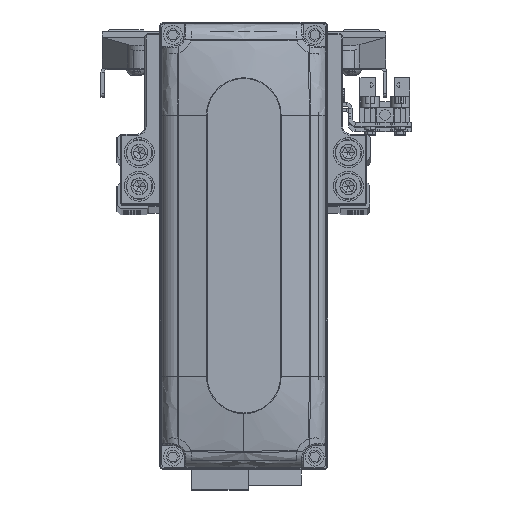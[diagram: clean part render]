
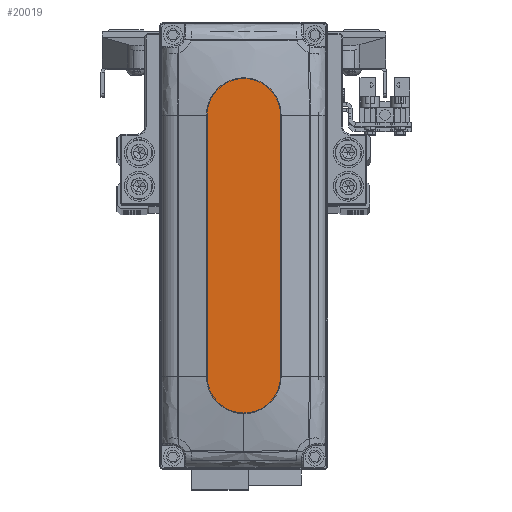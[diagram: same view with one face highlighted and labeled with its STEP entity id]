
A CAD part, top view. The second image highlights one B-rep face of the part: STEP entity #20019.
In plain terms, the highlighted planar face has unit normal (0, 0, 1).
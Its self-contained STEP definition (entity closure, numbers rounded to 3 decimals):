
#1081 = CARTESIAN_POINT ( 'NONE',  ( -35., 10., 28. ) ) ;
#1635 = VERTEX_POINT ( 'NONE', #8717 ) ;
#2013 = VERTEX_POINT ( 'NONE', #33654 ) ;
#2518 = ORIENTED_EDGE ( 'NONE', *, *, #35294, .T. ) ;
#3410 = AXIS2_PLACEMENT_3D ( 'NONE', #5566, #20137, #34595 ) ;
#4922 = DIRECTION ( 'NONE',  ( 0., 0., 1. ) ) ;
#5566 = CARTESIAN_POINT ( 'NONE',  ( 35., 0., 28. ) ) ;
#6626 = EDGE_CURVE ( 'NONE', #1635, #23513, #29495, .T. ) ;
#6860 = DIRECTION ( 'NONE',  ( 1., 0., 0. ) ) ;
#7547 = EDGE_CURVE ( 'NONE', #12748, #1635, #45871, .T. ) ;
#8717 = CARTESIAN_POINT ( 'NONE',  ( -35., -10., 28. ) ) ;
#8799 = EDGE_CURVE ( 'NONE', #2013, #36506, #23962, .T. ) ;
#10449 = PLANE ( 'NONE',  #24432 ) ;
#11001 = ORIENTED_EDGE ( 'NONE', *, *, #8799, .T. ) ;
#11414 = DIRECTION ( 'NONE',  ( 1., 0., 0. ) ) ;
#11912 = EDGE_LOOP ( 'NONE', ( #35674, #17761, #17224, #2518, #11001 ) ) ;
#12485 = CARTESIAN_POINT ( 'NONE',  ( -35., 0., 28. ) ) ;
#12748 = VERTEX_POINT ( 'NONE', #39016 ) ;
#15626 = DIRECTION ( 'NONE',  ( -1., 0., 0. ) ) ;
#17224 = ORIENTED_EDGE ( 'NONE', *, *, #6626, .T. ) ;
#17761 = ORIENTED_EDGE ( 'NONE', *, *, #7547, .T. ) ;
#18000 = CIRCLE ( 'NONE', #44559, 10. ) ;
#19490 = DIRECTION ( 'NONE',  ( 1., 0., 0. ) ) ;
#20019 = ADVANCED_FACE ( 'NONE', ( #43030 ), #10449, .T. ) ;
#20137 = DIRECTION ( 'NONE',  ( 0., 0., 1. ) ) ;
#20600 = EDGE_CURVE ( 'NONE', #36506, #12748, #33682, .T. ) ;
#23513 = VERTEX_POINT ( 'NONE', #30838 ) ;
#23962 = CIRCLE ( 'NONE', #3410, 10. ) ;
#24432 = AXIS2_PLACEMENT_3D ( 'NONE', #24964, #39475, #6860 ) ;
#24964 = CARTESIAN_POINT ( 'NONE',  ( 0., 0., 28. ) ) ;
#25349 = AXIS2_PLACEMENT_3D ( 'NONE', #12485, #27003, #41484 ) ;
#25786 = VECTOR ( 'NONE', #11414, 1000. ) ;
#27003 = DIRECTION ( 'NONE',  ( 0., 0., 1. ) ) ;
#29495 = LINE ( 'NONE', #43998, #25786 ) ;
#30838 = CARTESIAN_POINT ( 'NONE',  ( 35., -10., 28. ) ) ;
#32609 = CARTESIAN_POINT ( 'NONE',  ( 35., 10., 28. ) ) ;
#33464 = VECTOR ( 'NONE', #15626, 1000. ) ;
#33654 = CARTESIAN_POINT ( 'NONE',  ( 45., 0., 28. ) ) ;
#33682 = LINE ( 'NONE', #1081, #33464 ) ;
#34595 = DIRECTION ( 'NONE',  ( 1., 0., 0. ) ) ;
#35294 = EDGE_CURVE ( 'NONE', #23513, #2013, #18000, .T. ) ;
#35674 = ORIENTED_EDGE ( 'NONE', *, *, #20600, .T. ) ;
#36506 = VERTEX_POINT ( 'NONE', #32609 ) ;
#37550 = CARTESIAN_POINT ( 'NONE',  ( 35., 0., 28. ) ) ;
#39016 = CARTESIAN_POINT ( 'NONE',  ( -35., 10., 28. ) ) ;
#39475 = DIRECTION ( 'NONE',  ( 0., 0., 1. ) ) ;
#41484 = DIRECTION ( 'NONE',  ( 1., 0., 0. ) ) ;
#43030 = FACE_OUTER_BOUND ( 'NONE', #11912, .T. ) ;
#43998 = CARTESIAN_POINT ( 'NONE',  ( -35., -10., 28. ) ) ;
#44559 = AXIS2_PLACEMENT_3D ( 'NONE', #37550, #4922, #19490 ) ;
#45871 = CIRCLE ( 'NONE', #25349, 10. ) ;
